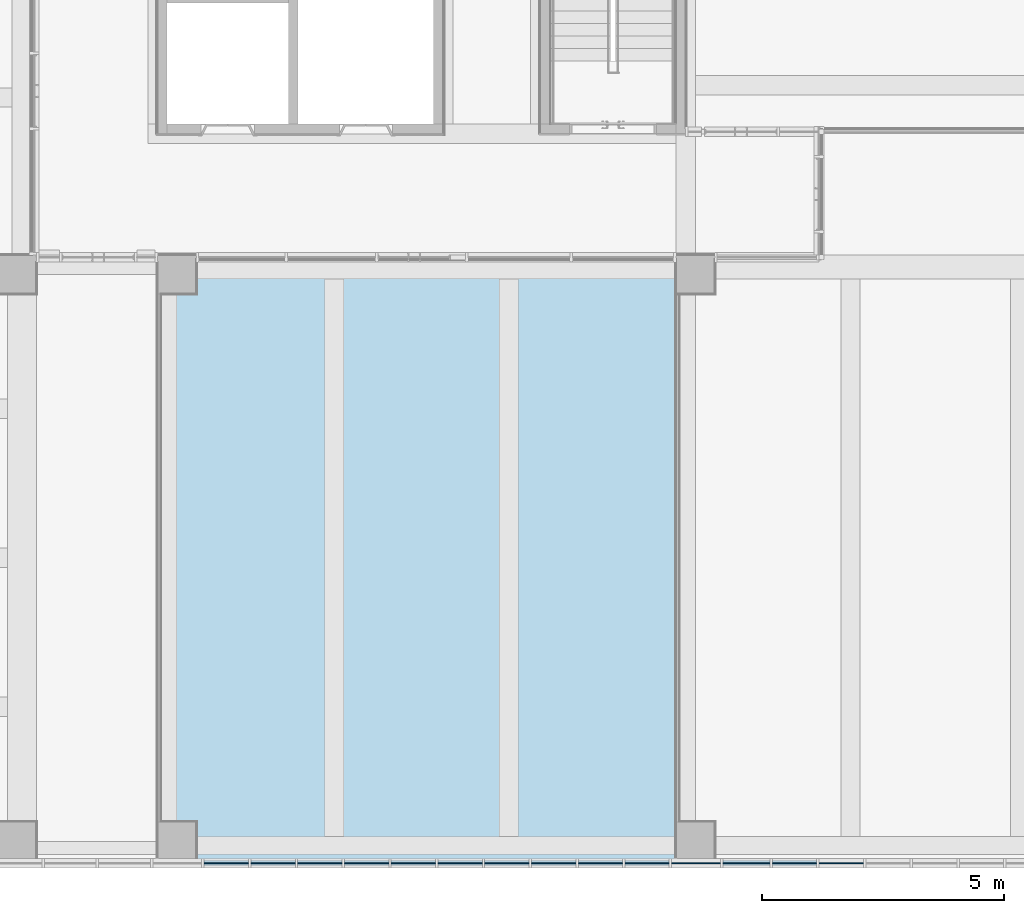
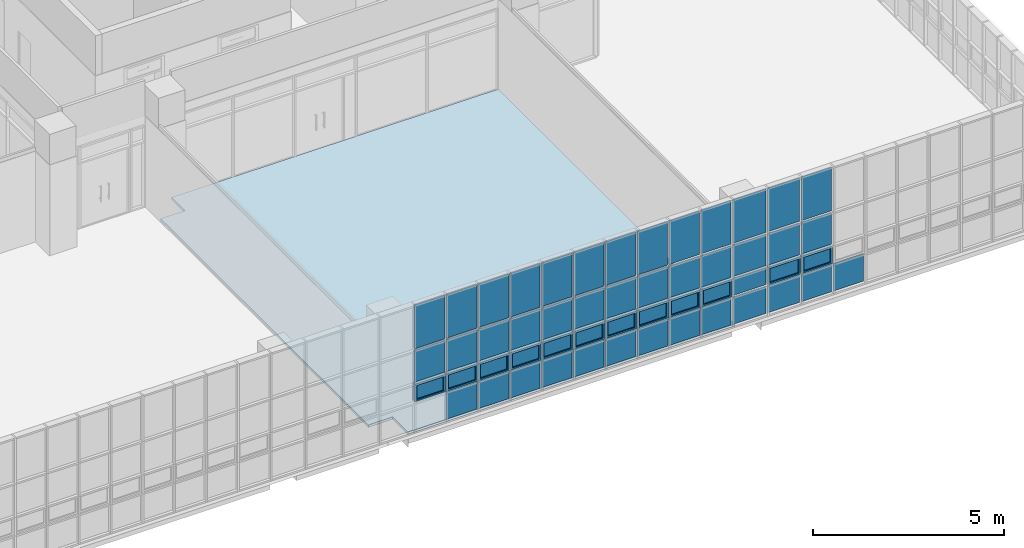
# One storey, part 31 of 76: 52 plates, 1 slab, 1 element without a shape of its own.
"""IFC2X3 building model written with IfcOpenShell, lengths in millimetres."""

from ifc_helpers import new_model, entity, si_unit, converted_unit, derived_unit, direction, frame, origin, origin_2d_with_axis, place, context, subcontext, project, spatial, polyline, rectangle, outline, extrude, source, transform, mapped, material, material_list, layer, layer_set, layer_usage, type_object, type_shapes, element, aggregate, save


model = new_model("IFC2X3")

# Units and contexts
model_context = context("Model", 3, precision=0.01, world=origin(), true_north=direction((6.123031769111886e-17, 1.0)))
body_context = subcontext(model_context, "Body", "Model", "MODEL_VIEW")
ifc_project = project(units=[si_unit("LENGTHUNIT", "METRE", prefix="MILLI"), si_unit("AREAUNIT", "SQUARE_METRE"), si_unit("VOLUMEUNIT", "CUBIC_METRE"), converted_unit("PLANEANGLEUNIT", "DEGREE", entity("IfcRatioMeasure", 0.017453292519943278), si_unit("PLANEANGLEUNIT", "RADIAN"), dimensions=[0, 0, 0, 0, 0, 0, 0]), si_unit("MASSUNIT", "GRAM", prefix="KILO"), derived_unit("MASSDENSITYUNIT", [(si_unit("MASSUNIT", "GRAM", prefix="KILO"), 1), (si_unit("LENGTHUNIT", "METRE"), -3)]), derived_unit("MOMENTOFINERTIAUNIT", [(si_unit("LENGTHUNIT", "METRE"), 4)]), si_unit("TIMEUNIT", "SECOND"), si_unit("FREQUENCYUNIT", "HERTZ"), si_unit("THERMODYNAMICTEMPERATUREUNIT", "DEGREE_CELSIUS"), derived_unit("THERMALTRANSMITTANCEUNIT", [(si_unit("MASSUNIT", "GRAM", prefix="KILO"), 1), (si_unit("THERMODYNAMICTEMPERATUREUNIT", "KELVIN"), -1), (si_unit("TIMEUNIT", "SECOND"), -3)]), derived_unit("VOLUMETRICFLOWRATEUNIT", [(si_unit("LENGTHUNIT", "METRE"), 3), (si_unit("TIMEUNIT", "SECOND"), -1)]), derived_unit("MASSFLOWRATEUNIT", [(si_unit("MASSUNIT", "GRAM", prefix="KILO"), 1), (si_unit("TIMEUNIT", "SECOND"), -1)]), derived_unit("ROTATIONALFREQUENCYUNIT", [(si_unit("TIMEUNIT", "SECOND"), -1)]), si_unit("ELECTRICCURRENTUNIT", "AMPERE"), si_unit("ELECTRICVOLTAGEUNIT", "VOLT"), si_unit("POWERUNIT", "WATT"), si_unit("FORCEUNIT", "NEWTON", prefix="KILO"), si_unit("ILLUMINANCEUNIT", "LUX"), si_unit("LUMINOUSFLUXUNIT", "LUMEN"), si_unit("LUMINOUSINTENSITYUNIT", "CANDELA"), derived_unit("USERDEFINED", [(si_unit("MASSUNIT", "GRAM", prefix="KILO"), -1), (si_unit("LENGTHUNIT", "METRE"), -2), (si_unit("TIMEUNIT", "SECOND"), 3), (si_unit("LUMINOUSFLUXUNIT", "LUMEN"), 1)]), derived_unit("SOUNDPOWERUNIT", [(si_unit("MASSUNIT", "GRAM", prefix="KILO"), 1), (si_unit("LENGTHUNIT", "METRE"), 2), (si_unit("TIMEUNIT", "SECOND"), -3)]), derived_unit("SOUNDPRESSUREUNIT", [(si_unit("MASSUNIT", "GRAM", prefix="KILO"), 1), (si_unit("LENGTHUNIT", "METRE"), -1), (si_unit("TIMEUNIT", "SECOND"), -2)]), derived_unit("LINEARVELOCITYUNIT", [(si_unit("LENGTHUNIT", "METRE"), 1), (si_unit("TIMEUNIT", "SECOND"), -1)]), si_unit("PRESSUREUNIT", "PASCAL"), derived_unit("USERDEFINED", [(si_unit("LENGTHUNIT", "METRE"), -2), (si_unit("MASSUNIT", "GRAM", prefix="KILO"), 1), (si_unit("TIMEUNIT", "SECOND"), -2)]), derived_unit("LINEARFORCEUNIT", [(si_unit("MASSUNIT", "GRAM", prefix="KILO"), 1), (si_unit("LENGTHUNIT", "METRE"), 1), (si_unit("TIMEUNIT", "SECOND"), -2), (si_unit("LENGTHUNIT", "METRE"), -1)]), derived_unit("PLANARFORCEUNIT", [(si_unit("MASSUNIT", "GRAM", prefix="KILO"), 1), (si_unit("LENGTHUNIT", "METRE"), 1), (si_unit("TIMEUNIT", "SECOND"), -2), (si_unit("LENGTHUNIT", "METRE"), -2)])], contexts=[model_context])

# Site, building, storey
site_placement = place(None, frame((-14167.972527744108, -657.2125860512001, 0.0)))
site = spatial("IfcSite", under=ifc_project, at=site_placement, Name="Default", CompositionType="ELEMENT")
building_placement = place(site_placement, origin())
building = spatial("IfcBuilding", under=site, at=building_placement, Name="Sample Building", CompositionType="ELEMENT")
storey_placement = place(building_placement, frame((0.0, 0.0, 9300.0)))
storey = spatial("IfcBuildingStorey", under=building, at=storey_placement, Name="지상 3층", CompositionType="ELEMENT", Elevation=9300.000000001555)

# Curtain wall, plates
curtain_wall_type = type_object("IfcCurtainWallType", Name="커튼월:CW112-스테인리스 스틸 커튼월", PredefinedType="NOTDEFINED")
curtain_wall_placement = place(storey_placement, frame((0.0, 0.0, -9300.0)))
curtain_wall = element("IfcCurtainWall", 1, at=curtain_wall_placement, inside=storey, type_object=curtain_wall_type, Name="커튼월:CW112-스테인리스 스틸 커튼월", ObjectType="커튼월:CW112-스테인리스 스틸 커튼월")
ifc_material_1 = material(Name="KBIMS-로이유리(코팅)")
plate_type_1 = type_object("IfcPlateType", Name="CW300-THK24.Low-e coating glass:CW300-THK24.Low-e coating glass", PredefinedType="CURTAIN_PANEL", material=ifc_material_1)
shared_shape_1 = source(origin(), body_context, "Body", "SweptSolid", [
    extrude(rectangle(XDim=914.9999999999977, YDim=24.000000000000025, at=origin_2d_with_axis()), frame((0.0, 0.0, 0.0), z_axis=(0.0, 0.0, 1.0), x_axis=(-1.0, 0.0, 0.0)), (0.0, 0.0, 1.0), 875.0000000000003),
])
type_shapes(plate_type_1, [shared_shape_1])
plate_1_placement = place(curtain_wall_placement, frame((32452.65607007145, 507.21229514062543, 9430.0)))
plate_1 = element("IfcPlate", 2, at=plate_1_placement, type_object=plate_type_1, material=ifc_material_1, Name="CW300-THK24.Low-e coating glass:CW300-THK24.Low-e coating glass", ObjectType="CW300-THK24.Low-e coating glass:CW300-THK24.Low-e coating glass", context=body_context, shape_type="MappedRepresentation", body=[
    mapped(shared_shape_1, transform((0.0, 0.0, 0.0), scale=1.0)),
])
plate_2_placement = place(curtain_wall_placement, frame((33417.656070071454, 507.21229514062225, 9430.0)))
plate_2 = element("IfcPlate", 3, at=plate_2_placement, type_object=plate_type_1, material=ifc_material_1, Name="CW300-THK24.Low-e coating glass:CW300-THK24.Low-e coating glass", ObjectType="CW300-THK24.Low-e coating glass:CW300-THK24.Low-e coating glass", context=body_context, shape_type="MappedRepresentation", body=[
    mapped(shared_shape_1, transform((0.0, 0.0, 0.0), scale=1.0)),
])
plate_3_placement = place(curtain_wall_placement, frame((34382.656070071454, 507.2122951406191, 9430.0)))
plate_3 = element("IfcPlate", 4, at=plate_3_placement, type_object=plate_type_1, material=ifc_material_1, Name="CW300-THK24.Low-e coating glass:CW300-THK24.Low-e coating glass", ObjectType="CW300-THK24.Low-e coating glass:CW300-THK24.Low-e coating glass", context=body_context, shape_type="MappedRepresentation", body=[
    mapped(shared_shape_1, transform((0.0, 0.0, 0.0), scale=1.0)),
])
plate_4_placement = place(curtain_wall_placement, frame((35347.656070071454, 507.21229514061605, 9430.0)))
plate_4 = element("IfcPlate", 5, at=plate_4_placement, type_object=plate_type_1, material=ifc_material_1, Name="CW300-THK24.Low-e coating glass:CW300-THK24.Low-e coating glass", ObjectType="CW300-THK24.Low-e coating glass:CW300-THK24.Low-e coating glass", context=body_context, shape_type="MappedRepresentation", body=[
    mapped(shared_shape_1, transform((0.0, 0.0, 0.0), scale=1.0)),
])
plate_5_placement = place(curtain_wall_placement, frame((36312.656070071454, 507.2122951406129, 9430.0)))
plate_5 = element("IfcPlate", 6, at=plate_5_placement, type_object=plate_type_1, material=ifc_material_1, Name="CW300-THK24.Low-e coating glass:CW300-THK24.Low-e coating glass", ObjectType="CW300-THK24.Low-e coating glass:CW300-THK24.Low-e coating glass", context=body_context, shape_type="MappedRepresentation", body=[
    mapped(shared_shape_1, transform((0.0, 0.0, 0.0), scale=1.0)),
])
plate_6_placement = place(curtain_wall_placement, frame((37277.65607007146, 507.2122951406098, 9430.0)))
plate_6 = element("IfcPlate", 7, at=plate_6_placement, type_object=plate_type_1, material=ifc_material_1, Name="CW300-THK24.Low-e coating glass:CW300-THK24.Low-e coating glass", ObjectType="CW300-THK24.Low-e coating glass:CW300-THK24.Low-e coating glass", context=body_context, shape_type="MappedRepresentation", body=[
    mapped(shared_shape_1, transform((0.0, 0.0, 0.0), scale=1.0)),
])
plate_7_placement = place(curtain_wall_placement, frame((38242.65607007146, 507.21229514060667, 9430.0)))
plate_7 = element("IfcPlate", 8, at=plate_7_placement, type_object=plate_type_1, material=ifc_material_1, Name="CW300-THK24.Low-e coating glass:CW300-THK24.Low-e coating glass", ObjectType="CW300-THK24.Low-e coating glass:CW300-THK24.Low-e coating glass", context=body_context, shape_type="MappedRepresentation", body=[
    mapped(shared_shape_1, transform((0.0, 0.0, 0.0), scale=1.0)),
])
plate_8_placement = place(curtain_wall_placement, frame((39207.65607007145, 507.21229514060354, 9430.0)))
plate_8 = element("IfcPlate", 9, at=plate_8_placement, type_object=plate_type_1, material=ifc_material_1, Name="CW300-THK24.Low-e coating glass:CW300-THK24.Low-e coating glass", ObjectType="CW300-THK24.Low-e coating glass:CW300-THK24.Low-e coating glass", context=body_context, shape_type="MappedRepresentation", body=[
    mapped(shared_shape_1, transform((0.0, 0.0, 0.0), scale=1.0)),
])
plate_9_placement = place(curtain_wall_placement, frame((43212.656070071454, 507.21229514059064, 9430.0)))
plate_9 = element("IfcPlate", 10, at=plate_9_placement, type_object=plate_type_1, material=ifc_material_1, Name="CW300-THK24.Low-e coating glass:CW300-THK24.Low-e coating glass", ObjectType="CW300-THK24.Low-e coating glass:CW300-THK24.Low-e coating glass", context=body_context, shape_type="MappedRepresentation", body=[
    mapped(shared_shape_1, transform((0.0, 0.0, 0.0), scale=1.0)),
])
plate_10_placement = place(curtain_wall_placement, frame((44177.65607007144, 507.2122951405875, 9430.0)))
plate_10 = element("IfcPlate", 11, at=plate_10_placement, type_object=plate_type_1, material=ifc_material_1, Name="CW300-THK24.Low-e coating glass:CW300-THK24.Low-e coating glass", ObjectType="CW300-THK24.Low-e coating glass:CW300-THK24.Low-e coating glass", context=body_context, shape_type="MappedRepresentation", body=[
    mapped(shared_shape_1, transform((0.0, 0.0, 0.0), scale=1.0)),
])
plate_type_2 = type_object("IfcPlateType", Name="CW300-THK24.Low-e coating glass:CW300-THK24.Low-e coating glass", PredefinedType="CURTAIN_PANEL", material=ifc_material_1)
shared_shape_2 = source(origin(), body_context, "Body", "SweptSolid", [
    extrude(rectangle(XDim=1009.9999999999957, YDim=24.000000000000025, at=origin_2d_with_axis()), frame((0.0, 0.0, 0.0), z_axis=(0.0, 0.0, 1.0), x_axis=(-1.0, 0.0, 0.0)), (0.0, 0.0, 1.0), 875.0000000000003),
])
type_shapes(plate_type_2, [shared_shape_2])
plate_11_placement = place(curtain_wall_placement, frame((41180.15607007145, 507.21229514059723, 9430.0)))
plate_11 = element("IfcPlate", 12, at=plate_11_placement, type_object=plate_type_2, material=ifc_material_1, Name="CW300-THK24.Low-e coating glass:CW300-THK24.Low-e coating glass", ObjectType="CW300-THK24.Low-e coating glass:CW300-THK24.Low-e coating glass", context=body_context, shape_type="MappedRepresentation", body=[
    mapped(shared_shape_2, transform((0.0, 0.0, 0.0), scale=1.0)),
])
plate_type_3 = type_object("IfcPlateType", Name="CW300-THK24.Low-e coating glass:CW300-THK24.Low-e coating glass", PredefinedType="CURTAIN_PANEL", material=ifc_material_1)
shared_shape_3 = source(origin(), body_context, "Body", "SweptSolid", [
    extrude(rectangle(XDim=909.9999999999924, YDim=24.000000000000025, at=origin_2d_with_axis()), frame((0.0, 0.0, 0.0), z_axis=(0.0, 0.0, 1.0), x_axis=(-1.0, 0.0, 0.0)), (0.0, 0.0, 1.0), 875.0000000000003),
])
type_shapes(plate_type_3, [shared_shape_3])
plate_12_placement = place(curtain_wall_placement, frame((40170.15607007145, 507.2122951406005, 9430.0)))
plate_12 = element("IfcPlate", 13, at=plate_12_placement, type_object=plate_type_3, material=ifc_material_1, Name="CW300-THK24.Low-e coating glass:CW300-THK24.Low-e coating glass", ObjectType="CW300-THK24.Low-e coating glass:CW300-THK24.Low-e coating glass", context=body_context, shape_type="MappedRepresentation", body=[
    mapped(shared_shape_3, transform((0.0, 0.0, 0.0), scale=1.0)),
])
plate_type_4 = type_object("IfcPlateType", Name="CW300-THK24.Low-e coating glass:CW300-THK24.Low-e coating glass", PredefinedType="CURTAIN_PANEL", material=ifc_material_1)
shared_shape_4 = source(origin(), body_context, "Body", "SweptSolid", [
    extrude(rectangle(XDim=969.999999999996, YDim=24.000000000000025, at=origin_2d_with_axis()), frame((0.0, 0.0, 0.0), z_axis=(0.0, 0.0, 1.0), x_axis=(-1.0, 0.0, 0.0)), (0.0, 0.0, 1.0), 875.0000000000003),
])
type_shapes(plate_type_4, [shared_shape_4])
plate_13_placement = place(curtain_wall_placement, frame((42220.15607007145, 507.2122951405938, 9430.0)))
plate_13 = element("IfcPlate", 14, at=plate_13_placement, type_object=plate_type_4, material=ifc_material_1, Name="CW300-THK24.Low-e coating glass:CW300-THK24.Low-e coating glass", ObjectType="CW300-THK24.Low-e coating glass:CW300-THK24.Low-e coating glass", context=body_context, shape_type="MappedRepresentation", body=[
    mapped(shared_shape_4, transform((0.0, 0.0, 0.0), scale=1.0)),
])
ifc_material_2 = material(Name="KBIMS-유리")
ifc_material_3 = material(Name="KBIMS-알루미늄")
ifc_material_list_1 = material_list([ifc_material_2, ifc_material_3])
ifc_material_list_2 = material_list([ifc_material_2, ifc_material_3])
plate_type_5 = type_object("IfcPlateType", Name="CW410-프로젝트 창:CW410-프로젝트 창 (하부개폐)", PredefinedType="CURTAIN_PANEL", material=ifc_material_list_2)
shared_shape_5 = source(origin(), body_context, "Body", "SweptSolid", [
    extrude(rectangle(XDim=815.0000000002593, YDim=23.999999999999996, at=origin_2d_with_axis()), frame((0.0, -0.04999999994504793, 50.0), z_axis=(0.0, 0.0, 1.0), x_axis=(-1.0, 0.0, 0.0)), (0.0, 0.0, 1.0), 450.0000000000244),
    extrude(outline(polyline([(-457.4999999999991, -275.0), (457.4999999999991, -275.0), (457.4999999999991, 275.0), (-457.4999999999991, 275.0), (-457.4999999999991, -275.0)]), holes=[polyline([(-407.50000000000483, -225.0), (-407.5000000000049, 225.0), (407.50000000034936, 225.0), (407.50000000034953, -225.0), (-407.50000000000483, -225.0)])]), frame((0.0, -50.04999999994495, 275.0), z_axis=(0.0, 1.0, 0.0), x_axis=(1.0, 0.0, 0.0)), (0.0, 0.0, 1.0), 99.99999999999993),
])
type_shapes(plate_type_5, [shared_shape_5])
plate_14_placement = place(curtain_wall_placement, frame((31487.656070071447, 507.21229514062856, 10355.0)))
plate_14 = element("IfcPlate", 15, at=plate_14_placement, type_object=plate_type_5, material=ifc_material_list_1, Name="CW410-프로젝트 창:CW410-프로젝트 창 (하부개폐)", ObjectType="CW410-프로젝트 창:CW410-프로젝트 창 (하부개폐)", context=body_context, shape_type="MappedRepresentation", body=[
    mapped(shared_shape_5, transform((0.0, 0.0, 0.0), scale=1.0)),
])
ifc_material_list_3 = material_list([ifc_material_2, ifc_material_3])
plate_15_placement = place(curtain_wall_placement, frame((32452.65607007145, 507.21229514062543, 10355.0)))
plate_15 = element("IfcPlate", 16, at=plate_15_placement, type_object=plate_type_5, material=ifc_material_list_3, Name="CW410-프로젝트 창:CW410-프로젝트 창 (하부개폐)", ObjectType="CW410-프로젝트 창:CW410-프로젝트 창 (하부개폐)", context=body_context, shape_type="MappedRepresentation", body=[
    mapped(shared_shape_5, transform((0.0, 0.0, 0.0), scale=1.0)),
])
ifc_material_list_4 = material_list([ifc_material_2, ifc_material_3])
plate_16_placement = place(curtain_wall_placement, frame((33417.656070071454, 507.21229514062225, 10355.0)))
plate_16 = element("IfcPlate", 17, at=plate_16_placement, type_object=plate_type_5, material=ifc_material_list_4, Name="CW410-프로젝트 창:CW410-프로젝트 창 (하부개폐)", ObjectType="CW410-프로젝트 창:CW410-프로젝트 창 (하부개폐)", context=body_context, shape_type="MappedRepresentation", body=[
    mapped(shared_shape_5, transform((0.0, 0.0, 0.0), scale=1.0)),
])
ifc_material_list_5 = material_list([ifc_material_2, ifc_material_3])
plate_17_placement = place(curtain_wall_placement, frame((34382.656070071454, 507.2122951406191, 10355.0)))
plate_17 = element("IfcPlate", 18, at=plate_17_placement, type_object=plate_type_5, material=ifc_material_list_5, Name="CW410-프로젝트 창:CW410-프로젝트 창 (하부개폐)", ObjectType="CW410-프로젝트 창:CW410-프로젝트 창 (하부개폐)", context=body_context, shape_type="MappedRepresentation", body=[
    mapped(shared_shape_5, transform((0.0, 0.0, 0.0), scale=1.0)),
])
ifc_material_list_6 = material_list([ifc_material_2, ifc_material_3])
plate_18_placement = place(curtain_wall_placement, frame((35347.656070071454, 507.21229514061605, 10355.0)))
plate_18 = element("IfcPlate", 19, at=plate_18_placement, type_object=plate_type_5, material=ifc_material_list_6, Name="CW410-프로젝트 창:CW410-프로젝트 창 (하부개폐)", ObjectType="CW410-프로젝트 창:CW410-프로젝트 창 (하부개폐)", context=body_context, shape_type="MappedRepresentation", body=[
    mapped(shared_shape_5, transform((0.0, 0.0, 0.0), scale=1.0)),
])
ifc_material_list_7 = material_list([ifc_material_2, ifc_material_3])
plate_19_placement = place(curtain_wall_placement, frame((36312.656070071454, 507.2122951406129, 10355.0)))
plate_19 = element("IfcPlate", 20, at=plate_19_placement, type_object=plate_type_5, material=ifc_material_list_7, Name="CW410-프로젝트 창:CW410-프로젝트 창 (하부개폐)", ObjectType="CW410-프로젝트 창:CW410-프로젝트 창 (하부개폐)", context=body_context, shape_type="MappedRepresentation", body=[
    mapped(shared_shape_5, transform((0.0, 0.0, 0.0), scale=1.0)),
])
ifc_material_list_8 = material_list([ifc_material_2, ifc_material_3])
plate_20_placement = place(curtain_wall_placement, frame((37277.65607007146, 507.2122951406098, 10355.0)))
plate_20 = element("IfcPlate", 21, at=plate_20_placement, type_object=plate_type_5, material=ifc_material_list_8, Name="CW410-프로젝트 창:CW410-프로젝트 창 (하부개폐)", ObjectType="CW410-프로젝트 창:CW410-프로젝트 창 (하부개폐)", context=body_context, shape_type="MappedRepresentation", body=[
    mapped(shared_shape_5, transform((0.0, 0.0, 0.0), scale=1.0)),
])
ifc_material_list_9 = material_list([ifc_material_2, ifc_material_3])
plate_21_placement = place(curtain_wall_placement, frame((38242.65607007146, 507.21229514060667, 10355.0)))
plate_21 = element("IfcPlate", 22, at=plate_21_placement, type_object=plate_type_5, material=ifc_material_list_9, Name="CW410-프로젝트 창:CW410-프로젝트 창 (하부개폐)", ObjectType="CW410-프로젝트 창:CW410-프로젝트 창 (하부개폐)", context=body_context, shape_type="MappedRepresentation", body=[
    mapped(shared_shape_5, transform((0.0, 0.0, 0.0), scale=1.0)),
])
ifc_material_list_10 = material_list([ifc_material_2, ifc_material_3])
plate_22_placement = place(curtain_wall_placement, frame((39207.65607007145, 507.21229514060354, 10355.0)))
plate_22 = element("IfcPlate", 23, at=plate_22_placement, type_object=plate_type_5, material=ifc_material_list_10, Name="CW410-프로젝트 창:CW410-프로젝트 창 (하부개폐)", ObjectType="CW410-프로젝트 창:CW410-프로젝트 창 (하부개폐)", context=body_context, shape_type="MappedRepresentation", body=[
    mapped(shared_shape_5, transform((0.0, 0.0, 0.0), scale=1.0)),
])
ifc_material_list_11 = material_list([ifc_material_2, ifc_material_3])
plate_23_placement = place(curtain_wall_placement, frame((43212.656070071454, 507.21229514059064, 10355.0)))
plate_23 = element("IfcPlate", 24, at=plate_23_placement, type_object=plate_type_5, material=ifc_material_list_11, Name="CW410-프로젝트 창:CW410-프로젝트 창 (하부개폐)", ObjectType="CW410-프로젝트 창:CW410-프로젝트 창 (하부개폐)", context=body_context, shape_type="MappedRepresentation", body=[
    mapped(shared_shape_5, transform((0.0, 0.0, 0.0), scale=1.0)),
])
plate_type_6 = type_object("IfcPlateType", Name="CW300-THK24.Low-e coating glass:CW300-THK24.Low-e coating glass", PredefinedType="CURTAIN_PANEL", material=ifc_material_1)
shared_shape_6 = source(origin(), body_context, "Body", "SweptSolid", [
    extrude(rectangle(XDim=1010.0, YDim=24.000000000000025, at=origin_2d_with_axis()), frame((0.0, 0.0, 0.0), z_axis=(0.0, 0.0, 1.0), x_axis=(-1.0, 0.0, 0.0)), (0.0, 0.0, 1.0), 549.9999999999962),
])
type_shapes(plate_type_6, [shared_shape_6])
plate_24_placement = place(curtain_wall_placement, frame((41180.15607007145, 507.21229514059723, 10355.0)))
plate_24 = element("IfcPlate", 25, at=plate_24_placement, type_object=plate_type_6, material=ifc_material_1, Name="CW300-THK24.Low-e coating glass:CW300-THK24.Low-e coating glass", ObjectType="CW300-THK24.Low-e coating glass:CW300-THK24.Low-e coating glass", context=body_context, shape_type="MappedRepresentation", body=[
    mapped(shared_shape_6, transform((0.0, 0.0, 0.0), scale=1.0)),
])
ifc_material_list_12 = material_list([ifc_material_2, ifc_material_3])
ifc_material_list_13 = material_list([ifc_material_2, ifc_material_3])
plate_type_7 = type_object("IfcPlateType", Name="CW410-프로젝트 창:CW410-프로젝트 창 (하부개폐)", PredefinedType="CURTAIN_PANEL", material=ifc_material_list_13)
shared_shape_7 = source(origin(), body_context, "Body", "SweptSolid", [
    extrude(rectangle(XDim=810.000000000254, YDim=23.999999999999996, at=origin_2d_with_axis()), frame((0.0, -0.04999999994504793, 50.0), z_axis=(0.0, 0.0, 1.0), x_axis=(-1.0, 0.0, 0.0)), (0.0, 0.0, 1.0), 450.0000000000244),
    extrude(outline(polyline([(-455.0, -275.0), (455.0, -275.0), (455.0, 275.0), (-455.0, 275.0), (-455.0, -275.0)]), holes=[polyline([(-405.0, -225.0), (-405.0, 225.0), (405.0, 225.0), (405.0, -225.0), (-405.0, -225.0)])]), frame((0.0, -50.04999999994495, 275.0), z_axis=(0.0, 1.0, 0.0), x_axis=(1.0, 0.0, 0.0)), (0.0, 0.0, 1.0), 99.99999999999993),
])
type_shapes(plate_type_7, [shared_shape_7])
plate_25_placement = place(curtain_wall_placement, frame((40170.15607007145, 507.2122951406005, 10355.0)))
plate_25 = element("IfcPlate", 26, at=plate_25_placement, type_object=plate_type_7, material=ifc_material_list_12, Name="CW410-프로젝트 창:CW410-프로젝트 창 (하부개폐)", ObjectType="CW410-프로젝트 창:CW410-프로젝트 창 (하부개폐)", context=body_context, shape_type="MappedRepresentation", body=[
    mapped(shared_shape_7, transform((0.0, 0.0, 0.0), scale=1.0)),
])
ifc_material_list_14 = material_list([ifc_material_2, ifc_material_3])
ifc_material_list_15 = material_list([ifc_material_2, ifc_material_3])
plate_type_8 = type_object("IfcPlateType", Name="CW410-프로젝트 창:CW410-프로젝트 창 (하부개폐)", PredefinedType="CURTAIN_PANEL", material=ifc_material_list_15)
shared_shape_8 = source(origin(), body_context, "Body", "SweptSolid", [
    extrude(rectangle(XDim=870.0000000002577, YDim=23.999999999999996, at=origin_2d_with_axis()), frame((0.0, -0.04999999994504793, 50.0), z_axis=(0.0, 0.0, 1.0), x_axis=(-1.0, 0.0, 0.0)), (0.0, 0.0, 1.0), 450.0000000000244),
    extrude(outline(polyline([(-485.0, -275.0), (485.0, -275.0), (485.0, 275.0), (-485.0, 275.0), (-485.0, -275.0)]), holes=[polyline([(-435.0, -225.0), (-435.0, 225.0), (435.0, 225.0), (435.0, -225.0), (-435.0, -225.0)])]), frame((0.0, -50.04999999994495, 275.0), z_axis=(0.0, 1.0, 0.0), x_axis=(1.0, 0.0, 0.0)), (0.0, 0.0, 1.0), 99.99999999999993),
])
type_shapes(plate_type_8, [shared_shape_8])
plate_26_placement = place(curtain_wall_placement, frame((42220.15607007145, 507.2122951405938, 10355.0)))
plate_26 = element("IfcPlate", 27, at=plate_26_placement, type_object=plate_type_8, material=ifc_material_list_14, Name="CW410-프로젝트 창:CW410-프로젝트 창 (하부개폐)", ObjectType="CW410-프로젝트 창:CW410-프로젝트 창 (하부개폐)", context=body_context, shape_type="MappedRepresentation", body=[
    mapped(shared_shape_8, transform((0.0, 0.0, 0.0), scale=1.0)),
])
plate_type_9 = type_object("IfcPlateType", Name="CW300-THK24.Low-e coating glass:CW300-THK24.Low-e coating glass", PredefinedType="CURTAIN_PANEL", material=ifc_material_1)
shared_shape_9 = source(origin(), body_context, "Body", "SweptSolid", [
    extrude(rectangle(XDim=914.9999999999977, YDim=24.000000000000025, at=origin_2d_with_axis()), frame((0.0, 0.0, 0.0), z_axis=(0.0, 0.0, 1.0), x_axis=(-1.0, 0.0, 0.0)), (0.0, 0.0, 1.0), 1020.0000000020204),
])
type_shapes(plate_type_9, [shared_shape_9])
plate_27_placement = place(curtain_wall_placement, frame((31487.656070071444, 507.21229514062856, 10955.0)))
plate_27 = element("IfcPlate", 28, at=plate_27_placement, type_object=plate_type_9, material=ifc_material_1, Name="CW300-THK24.Low-e coating glass:CW300-THK24.Low-e coating glass", ObjectType="CW300-THK24.Low-e coating glass:CW300-THK24.Low-e coating glass", context=body_context, shape_type="MappedRepresentation", body=[
    mapped(shared_shape_9, transform((0.0, 0.0, 0.0), scale=1.0)),
])
plate_28_placement = place(curtain_wall_placement, frame((32452.65607007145, 507.21229514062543, 10955.0)))
plate_28 = element("IfcPlate", 29, at=plate_28_placement, type_object=plate_type_9, material=ifc_material_1, Name="CW300-THK24.Low-e coating glass:CW300-THK24.Low-e coating glass", ObjectType="CW300-THK24.Low-e coating glass:CW300-THK24.Low-e coating glass", context=body_context, shape_type="MappedRepresentation", body=[
    mapped(shared_shape_9, transform((0.0, 0.0, 0.0), scale=1.0)),
])
plate_29_placement = place(curtain_wall_placement, frame((33417.656070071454, 507.21229514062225, 10955.0)))
plate_29 = element("IfcPlate", 30, at=plate_29_placement, type_object=plate_type_9, material=ifc_material_1, Name="CW300-THK24.Low-e coating glass:CW300-THK24.Low-e coating glass", ObjectType="CW300-THK24.Low-e coating glass:CW300-THK24.Low-e coating glass", context=body_context, shape_type="MappedRepresentation", body=[
    mapped(shared_shape_9, transform((0.0, 0.0, 0.0), scale=1.0)),
])
plate_30_placement = place(curtain_wall_placement, frame((34382.656070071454, 507.2122951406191, 10955.0)))
plate_30 = element("IfcPlate", 31, at=plate_30_placement, type_object=plate_type_9, material=ifc_material_1, Name="CW300-THK24.Low-e coating glass:CW300-THK24.Low-e coating glass", ObjectType="CW300-THK24.Low-e coating glass:CW300-THK24.Low-e coating glass", context=body_context, shape_type="MappedRepresentation", body=[
    mapped(shared_shape_9, transform((0.0, 0.0, 0.0), scale=1.0)),
])
plate_31_placement = place(curtain_wall_placement, frame((35347.656070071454, 507.21229514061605, 10955.0)))
plate_31 = element("IfcPlate", 32, at=plate_31_placement, type_object=plate_type_9, material=ifc_material_1, Name="CW300-THK24.Low-e coating glass:CW300-THK24.Low-e coating glass", ObjectType="CW300-THK24.Low-e coating glass:CW300-THK24.Low-e coating glass", context=body_context, shape_type="MappedRepresentation", body=[
    mapped(shared_shape_9, transform((0.0, 0.0, 0.0), scale=1.0)),
])
plate_32_placement = place(curtain_wall_placement, frame((36312.656070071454, 507.2122951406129, 10955.0)))
plate_32 = element("IfcPlate", 33, at=plate_32_placement, type_object=plate_type_9, material=ifc_material_1, Name="CW300-THK24.Low-e coating glass:CW300-THK24.Low-e coating glass", ObjectType="CW300-THK24.Low-e coating glass:CW300-THK24.Low-e coating glass", context=body_context, shape_type="MappedRepresentation", body=[
    mapped(shared_shape_9, transform((0.0, 0.0, 0.0), scale=1.0)),
])
plate_33_placement = place(curtain_wall_placement, frame((37277.65607007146, 507.2122951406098, 10955.0)))
plate_33 = element("IfcPlate", 34, at=plate_33_placement, type_object=plate_type_9, material=ifc_material_1, Name="CW300-THK24.Low-e coating glass:CW300-THK24.Low-e coating glass", ObjectType="CW300-THK24.Low-e coating glass:CW300-THK24.Low-e coating glass", context=body_context, shape_type="MappedRepresentation", body=[
    mapped(shared_shape_9, transform((0.0, 0.0, 0.0), scale=1.0)),
])
plate_34_placement = place(curtain_wall_placement, frame((38242.65607007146, 507.21229514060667, 10955.0)))
plate_34 = element("IfcPlate", 35, at=plate_34_placement, type_object=plate_type_9, material=ifc_material_1, Name="CW300-THK24.Low-e coating glass:CW300-THK24.Low-e coating glass", ObjectType="CW300-THK24.Low-e coating glass:CW300-THK24.Low-e coating glass", context=body_context, shape_type="MappedRepresentation", body=[
    mapped(shared_shape_9, transform((0.0, 0.0, 0.0), scale=1.0)),
])
plate_35_placement = place(curtain_wall_placement, frame((39207.65607007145, 507.21229514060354, 10955.0)))
plate_35 = element("IfcPlate", 36, at=plate_35_placement, type_object=plate_type_9, material=ifc_material_1, Name="CW300-THK24.Low-e coating glass:CW300-THK24.Low-e coating glass", ObjectType="CW300-THK24.Low-e coating glass:CW300-THK24.Low-e coating glass", context=body_context, shape_type="MappedRepresentation", body=[
    mapped(shared_shape_9, transform((0.0, 0.0, 0.0), scale=1.0)),
])
plate_36_placement = place(curtain_wall_placement, frame((43212.656070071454, 507.21229514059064, 10955.0)))
plate_36 = element("IfcPlate", 37, at=plate_36_placement, type_object=plate_type_9, material=ifc_material_1, Name="CW300-THK24.Low-e coating glass:CW300-THK24.Low-e coating glass", ObjectType="CW300-THK24.Low-e coating glass:CW300-THK24.Low-e coating glass", context=body_context, shape_type="MappedRepresentation", body=[
    mapped(shared_shape_9, transform((0.0, 0.0, 0.0), scale=1.0)),
])
plate_type_10 = type_object("IfcPlateType", Name="CW300-THK24.Low-e coating glass:CW300-THK24.Low-e coating glass", PredefinedType="CURTAIN_PANEL", material=ifc_material_1)
shared_shape_10 = source(origin(), body_context, "Body", "SweptSolid", [
    extrude(rectangle(XDim=1010.0, YDim=24.000000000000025, at=origin_2d_with_axis()), frame((0.0, 0.0, 0.0), z_axis=(0.0, 0.0, 1.0), x_axis=(-1.0, 0.0, 0.0)), (0.0, 0.0, 1.0), 1020.0000000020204),
])
type_shapes(plate_type_10, [shared_shape_10])
plate_37_placement = place(curtain_wall_placement, frame((41180.15607007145, 507.21229514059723, 10955.0)))
plate_37 = element("IfcPlate", 38, at=plate_37_placement, type_object=plate_type_10, material=ifc_material_1, Name="CW300-THK24.Low-e coating glass:CW300-THK24.Low-e coating glass", ObjectType="CW300-THK24.Low-e coating glass:CW300-THK24.Low-e coating glass", context=body_context, shape_type="MappedRepresentation", body=[
    mapped(shared_shape_10, transform((0.0, 0.0, 0.0), scale=1.0)),
])
plate_type_11 = type_object("IfcPlateType", Name="CW300-THK24.Low-e coating glass:CW300-THK24.Low-e coating glass", PredefinedType="CURTAIN_PANEL", material=ifc_material_1)
shared_shape_11 = source(origin(), body_context, "Body", "SweptSolid", [
    extrude(rectangle(XDim=909.9999999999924, YDim=24.000000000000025, at=origin_2d_with_axis()), frame((0.0, 0.0, 0.0), z_axis=(0.0, 0.0, 1.0), x_axis=(-1.0, 0.0, 0.0)), (0.0, 0.0, 1.0), 1020.0000000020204),
])
type_shapes(plate_type_11, [shared_shape_11])
plate_38_placement = place(curtain_wall_placement, frame((40170.15607007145, 507.2122951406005, 10955.0)))
plate_38 = element("IfcPlate", 39, at=plate_38_placement, type_object=plate_type_11, material=ifc_material_1, Name="CW300-THK24.Low-e coating glass:CW300-THK24.Low-e coating glass", ObjectType="CW300-THK24.Low-e coating glass:CW300-THK24.Low-e coating glass", context=body_context, shape_type="MappedRepresentation", body=[
    mapped(shared_shape_11, transform((0.0, 0.0, 0.0), scale=1.0)),
])
plate_type_12 = type_object("IfcPlateType", Name="CW300-THK24.Low-e coating glass:CW300-THK24.Low-e coating glass", PredefinedType="CURTAIN_PANEL", material=ifc_material_1)
shared_shape_12 = source(origin(), body_context, "Body", "SweptSolid", [
    extrude(rectangle(XDim=969.999999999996, YDim=24.000000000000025, at=origin_2d_with_axis()), frame((0.0, 0.0, 0.0), z_axis=(0.0, 0.0, 1.0), x_axis=(-1.0, 0.0, 0.0)), (0.0, 0.0, 1.0), 1020.0000000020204),
])
type_shapes(plate_type_12, [shared_shape_12])
plate_39_placement = place(curtain_wall_placement, frame((42220.15607007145, 507.2122951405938, 10955.0)))
plate_39 = element("IfcPlate", 40, at=plate_39_placement, type_object=plate_type_12, material=ifc_material_1, Name="CW300-THK24.Low-e coating glass:CW300-THK24.Low-e coating glass", ObjectType="CW300-THK24.Low-e coating glass:CW300-THK24.Low-e coating glass", context=body_context, shape_type="MappedRepresentation", body=[
    mapped(shared_shape_12, transform((0.0, 0.0, 0.0), scale=1.0)),
])
plate_type_13 = type_object("IfcPlateType", Name="CW300-THK24.Low-e coating glass:CW300-THK24.Low-e coating glass", PredefinedType="CURTAIN_PANEL", material=ifc_material_1)
shared_shape_13 = source(origin(), body_context, "Body", "SweptSolid", [
    extrude(rectangle(XDim=914.9999999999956, YDim=24.000000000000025, at=origin_2d_with_axis()), frame((0.0, 0.0, 0.0), z_axis=(0.0, 0.0, 1.0), x_axis=(-1.0, 0.0, 0.0)), (0.0, 0.0, 1.0), 1404.9999999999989),
])
type_shapes(plate_type_13, [shared_shape_13])
plate_40_placement = place(curtain_wall_placement, frame((31487.656070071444, 507.21229514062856, 12025.0)))
plate_40 = element("IfcPlate", 41, at=plate_40_placement, type_object=plate_type_13, material=ifc_material_1, Name="CW300-THK24.Low-e coating glass:CW300-THK24.Low-e coating glass", ObjectType="CW300-THK24.Low-e coating glass:CW300-THK24.Low-e coating glass", context=body_context, shape_type="MappedRepresentation", body=[
    mapped(shared_shape_13, transform((0.0, 0.0, 0.0), scale=1.0)),
])
plate_41_placement = place(curtain_wall_placement, frame((32452.65607007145, 507.21229514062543, 12025.0)))
plate_41 = element("IfcPlate", 42, at=plate_41_placement, type_object=plate_type_13, material=ifc_material_1, Name="CW300-THK24.Low-e coating glass:CW300-THK24.Low-e coating glass", ObjectType="CW300-THK24.Low-e coating glass:CW300-THK24.Low-e coating glass", context=body_context, shape_type="MappedRepresentation", body=[
    mapped(shared_shape_13, transform((0.0, 0.0, 0.0), scale=1.0)),
])
plate_42_placement = place(curtain_wall_placement, frame((33417.656070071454, 507.21229514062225, 12025.0)))
plate_42 = element("IfcPlate", 43, at=plate_42_placement, type_object=plate_type_13, material=ifc_material_1, Name="CW300-THK24.Low-e coating glass:CW300-THK24.Low-e coating glass", ObjectType="CW300-THK24.Low-e coating glass:CW300-THK24.Low-e coating glass", context=body_context, shape_type="MappedRepresentation", body=[
    mapped(shared_shape_13, transform((0.0, 0.0, 0.0), scale=1.0)),
])
plate_43_placement = place(curtain_wall_placement, frame((34382.656070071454, 507.2122951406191, 12025.0)))
plate_43 = element("IfcPlate", 44, at=plate_43_placement, type_object=plate_type_13, material=ifc_material_1, Name="CW300-THK24.Low-e coating glass:CW300-THK24.Low-e coating glass", ObjectType="CW300-THK24.Low-e coating glass:CW300-THK24.Low-e coating glass", context=body_context, shape_type="MappedRepresentation", body=[
    mapped(shared_shape_13, transform((0.0, 0.0, 0.0), scale=1.0)),
])
plate_44_placement = place(curtain_wall_placement, frame((35347.656070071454, 507.21229514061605, 12025.0)))
plate_44 = element("IfcPlate", 45, at=plate_44_placement, type_object=plate_type_13, material=ifc_material_1, Name="CW300-THK24.Low-e coating glass:CW300-THK24.Low-e coating glass", ObjectType="CW300-THK24.Low-e coating glass:CW300-THK24.Low-e coating glass", context=body_context, shape_type="MappedRepresentation", body=[
    mapped(shared_shape_13, transform((0.0, 0.0, 0.0), scale=1.0)),
])
plate_45_placement = place(curtain_wall_placement, frame((36312.656070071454, 507.2122951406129, 12025.0)))
plate_45 = element("IfcPlate", 46, at=plate_45_placement, type_object=plate_type_13, material=ifc_material_1, Name="CW300-THK24.Low-e coating glass:CW300-THK24.Low-e coating glass", ObjectType="CW300-THK24.Low-e coating glass:CW300-THK24.Low-e coating glass", context=body_context, shape_type="MappedRepresentation", body=[
    mapped(shared_shape_13, transform((0.0, 0.0, 0.0), scale=1.0)),
])
plate_46_placement = place(curtain_wall_placement, frame((37277.656070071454, 507.2122951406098, 12025.0)))
plate_46 = element("IfcPlate", 47, at=plate_46_placement, type_object=plate_type_13, material=ifc_material_1, Name="CW300-THK24.Low-e coating glass:CW300-THK24.Low-e coating glass", ObjectType="CW300-THK24.Low-e coating glass:CW300-THK24.Low-e coating glass", context=body_context, shape_type="MappedRepresentation", body=[
    mapped(shared_shape_13, transform((0.0, 0.0, 0.0), scale=1.0)),
])
plate_47_placement = place(curtain_wall_placement, frame((38242.65607007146, 507.21229514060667, 12025.0)))
plate_47 = element("IfcPlate", 48, at=plate_47_placement, type_object=plate_type_13, material=ifc_material_1, Name="CW300-THK24.Low-e coating glass:CW300-THK24.Low-e coating glass", ObjectType="CW300-THK24.Low-e coating glass:CW300-THK24.Low-e coating glass", context=body_context, shape_type="MappedRepresentation", body=[
    mapped(shared_shape_13, transform((0.0, 0.0, 0.0), scale=1.0)),
])
plate_48_placement = place(curtain_wall_placement, frame((39207.65607007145, 507.21229514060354, 12025.0)))
plate_48 = element("IfcPlate", 49, at=plate_48_placement, type_object=plate_type_13, material=ifc_material_1, Name="CW300-THK24.Low-e coating glass:CW300-THK24.Low-e coating glass", ObjectType="CW300-THK24.Low-e coating glass:CW300-THK24.Low-e coating glass", context=body_context, shape_type="MappedRepresentation", body=[
    mapped(shared_shape_13, transform((0.0, 0.0, 0.0), scale=1.0)),
])
plate_49_placement = place(curtain_wall_placement, frame((43212.656070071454, 507.21229514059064, 12025.0)))
plate_49 = element("IfcPlate", 50, at=plate_49_placement, type_object=plate_type_13, material=ifc_material_1, Name="CW300-THK24.Low-e coating glass:CW300-THK24.Low-e coating glass", ObjectType="CW300-THK24.Low-e coating glass:CW300-THK24.Low-e coating glass", context=body_context, shape_type="MappedRepresentation", body=[
    mapped(shared_shape_13, transform((0.0, 0.0, 0.0), scale=1.0)),
])
plate_type_14 = type_object("IfcPlateType", Name="CW300-THK24.Low-e coating glass:CW300-THK24.Low-e coating glass", PredefinedType="CURTAIN_PANEL", material=ifc_material_1)
shared_shape_14 = source(origin(), body_context, "Body", "SweptSolid", [
    extrude(rectangle(XDim=1010.0, YDim=24.000000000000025, at=origin_2d_with_axis()), frame((0.0, 0.0, 0.0), z_axis=(0.0, 0.0, 1.0), x_axis=(-1.0, 0.0, 0.0)), (0.0, 0.0, 1.0), 1404.9999999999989),
])
type_shapes(plate_type_14, [shared_shape_14])
plate_50_placement = place(curtain_wall_placement, frame((41180.15607007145, 507.21229514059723, 12025.0)))
plate_50 = element("IfcPlate", 51, at=plate_50_placement, type_object=plate_type_14, material=ifc_material_1, Name="CW300-THK24.Low-e coating glass:CW300-THK24.Low-e coating glass", ObjectType="CW300-THK24.Low-e coating glass:CW300-THK24.Low-e coating glass", context=body_context, shape_type="MappedRepresentation", body=[
    mapped(shared_shape_14, transform((0.0, 0.0, 0.0), scale=1.0)),
])
plate_type_15 = type_object("IfcPlateType", Name="CW300-THK24.Low-e coating glass:CW300-THK24.Low-e coating glass", PredefinedType="CURTAIN_PANEL", material=ifc_material_1)
shared_shape_15 = source(origin(), body_context, "Body", "SweptSolid", [
    extrude(rectangle(XDim=909.9999999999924, YDim=24.000000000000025, at=origin_2d_with_axis()), frame((0.0, 0.0, 0.0), z_axis=(0.0, 0.0, 1.0), x_axis=(-1.0, 0.0, 0.0)), (0.0, 0.0, 1.0), 1404.9999999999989),
])
type_shapes(plate_type_15, [shared_shape_15])
plate_51_placement = place(curtain_wall_placement, frame((40170.15607007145, 507.2122951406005, 12025.0)))
plate_51 = element("IfcPlate", 52, at=plate_51_placement, type_object=plate_type_15, material=ifc_material_1, Name="CW300-THK24.Low-e coating glass:CW300-THK24.Low-e coating glass", ObjectType="CW300-THK24.Low-e coating glass:CW300-THK24.Low-e coating glass", context=body_context, shape_type="MappedRepresentation", body=[
    mapped(shared_shape_15, transform((0.0, 0.0, 0.0), scale=1.0)),
])
plate_type_16 = type_object("IfcPlateType", Name="CW300-THK24.Low-e coating glass:CW300-THK24.Low-e coating glass", PredefinedType="CURTAIN_PANEL", material=ifc_material_1)
shared_shape_16 = source(origin(), body_context, "Body", "SweptSolid", [
    extrude(rectangle(XDim=969.999999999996, YDim=24.000000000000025, at=origin_2d_with_axis()), frame((0.0, 0.0, 0.0), z_axis=(0.0, 0.0, 1.0), x_axis=(-1.0, 0.0, 0.0)), (0.0, 0.0, 1.0), 1404.9999999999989),
])
type_shapes(plate_type_16, [shared_shape_16])
plate_52_placement = place(curtain_wall_placement, frame((42220.15607007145, 507.2122951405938, 12025.0)))
plate_52 = element("IfcPlate", 53, at=plate_52_placement, type_object=plate_type_16, material=ifc_material_1, Name="CW300-THK24.Low-e coating glass:CW300-THK24.Low-e coating glass", ObjectType="CW300-THK24.Low-e coating glass:CW300-THK24.Low-e coating glass", context=body_context, shape_type="MappedRepresentation", body=[
    mapped(shared_shape_16, transform((0.0, 0.0, 0.0), scale=1.0)),
])
aggregate(curtain_wall, [plate_1, plate_2, plate_3, plate_4, plate_5, plate_6, plate_7, plate_8, plate_12, plate_11, plate_13, plate_9, plate_10, plate_14, plate_15, plate_16, plate_17, plate_18, plate_19, plate_20, plate_21, plate_22, plate_25, plate_24, plate_26, plate_23, plate_27, plate_28, plate_29, plate_30, plate_31, plate_32, plate_33, plate_34, plate_35, plate_38, plate_37, plate_39, plate_36, plate_40, plate_41, plate_42, plate_43, plate_44, plate_45, plate_46, plate_47, plate_48, plate_51, plate_50, plate_52, plate_49])

# Slab
ifc_material_4 = material(Name="SL341-테라조 바닥 (바탕48mm, 마감32mm)")
ifc_layer = layer(ifc_material_4, 80.0)
ifc_layer_set = layer_set([ifc_layer], Name="바닥:A1-14-06B-테라조타일 (80mm)")
ifc_layer_usage = layer_usage(ifc_layer_set, "AXIS3", "POSITIVE", 0.0)
slab_type = type_object("IfcSlabType", Name="바닥:A1-14-06B-테라조타일 (80mm)", PredefinedType="FLOOR", material=ifc_layer_set)
slab_placement = place(storey_placement, origin())
element("IfcSlab", 54, at=slab_placement, inside=storey, type_object=slab_type, material=ifc_layer_usage, Name="바닥:A1-14-06B-테라조타일 (80mm)", ObjectType="바닥:A1-14-06B-테라조타일 (80mm)", PredefinedType="FLOOR", context=body_context, shape_type="SweptSolid", body=[
    extrude(outline(polyline([(-5425.0001259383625, -3028.138018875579), (5474.999986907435, -3028.138018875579), (5474.999986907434, -2290.6206695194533), (6175.000264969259, -2290.620669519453), (6175.000264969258, 7609.379357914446), (-6225.000125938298, 7609.379357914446), (-6225.0001259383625, -2290.6206695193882), (-5425.0001259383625, -2290.620669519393), (-5425.0001259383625, -3028.138018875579)])), frame((33158.593133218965, 6782.212321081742, 80.0), z_axis=(0.0, 0.0, -1.0), x_axis=(0.0, 1.0, 0.0)), (0.0, 0.0, 1.0), 80.00000000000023),
])

save(model, "model.ifc")
